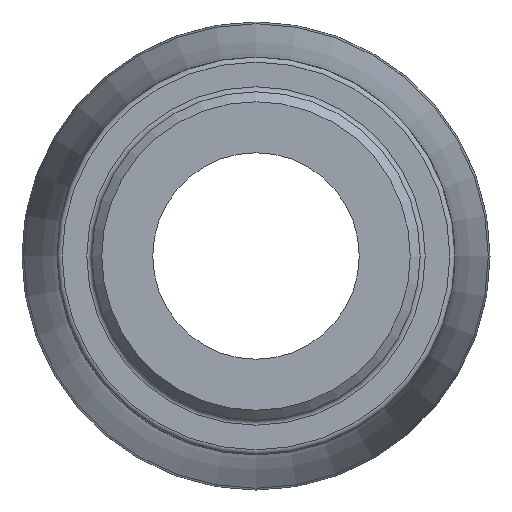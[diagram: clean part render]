
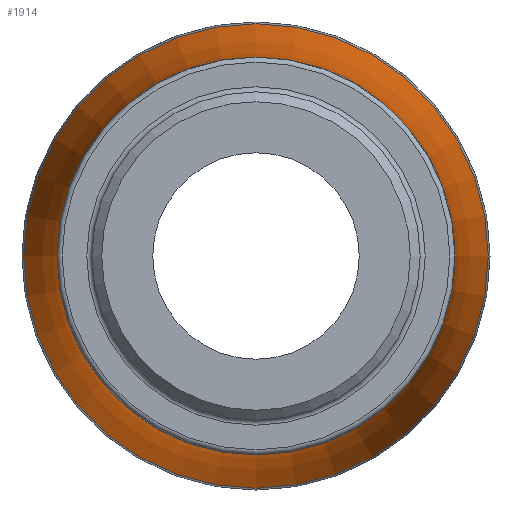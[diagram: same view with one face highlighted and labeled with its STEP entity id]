
A CAD part, left-side view. The second image highlights one B-rep face of the part: STEP entity #1914.
In plain terms, the highlighted toroidal (fillet/blend) face has major radius 199.835 mm and minor radius 163.71 mm.
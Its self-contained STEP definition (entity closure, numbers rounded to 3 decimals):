
#18=TOROIDAL_SURFACE('',#2162,199.835,163.71);
#363=FACE_OUTER_BOUND('',#478,.T.);
#478=EDGE_LOOP('',(#1798,#1799,#1800,#1801,#1802,#1803,#1804));
#668=CIRCLE('',#1943,36.125);
#669=CIRCLE('',#1944,36.125);
#670=CIRCLE('',#1945,36.125);
#737=CIRCLE('',#2043,42.185);
#738=CIRCLE('',#2044,42.185);
#785=CIRCLE('',#2163,163.71);
#791=VERTEX_POINT('',#2731);
#792=VERTEX_POINT('',#2732);
#793=VERTEX_POINT('',#2734);
#876=VERTEX_POINT('',#3236);
#877=VERTEX_POINT('',#3238);
#974=EDGE_CURVE('',#791,#792,#668,.T.);
#975=EDGE_CURVE('',#793,#791,#669,.T.);
#977=EDGE_CURVE('',#792,#793,#670,.T.);
#1084=EDGE_CURVE('',#876,#877,#737,.T.);
#1085=EDGE_CURVE('',#877,#876,#738,.T.);
#1246=EDGE_CURVE('',#792,#876,#785,.T.);
#1798=ORIENTED_EDGE('',*,*,#974,.T.);
#1799=ORIENTED_EDGE('',*,*,#1246,.T.);
#1800=ORIENTED_EDGE('',*,*,#1085,.F.);
#1801=ORIENTED_EDGE('',*,*,#1084,.F.);
#1802=ORIENTED_EDGE('',*,*,#1246,.F.);
#1803=ORIENTED_EDGE('',*,*,#977,.T.);
#1804=ORIENTED_EDGE('',*,*,#975,.T.);
#1914=ADVANCED_FACE('',(#363),#18,.F.);
#1943=AXIS2_PLACEMENT_3D('',#2733,#2183,#2184);
#1944=AXIS2_PLACEMENT_3D('',#2735,#2185,#2186);
#1945=AXIS2_PLACEMENT_3D('',#2737,#2188,#2189);
#2043=AXIS2_PLACEMENT_3D('',#3239,#2408,#2409);
#2044=AXIS2_PLACEMENT_3D('',#3240,#2410,#2411);
#2162=AXIS2_PLACEMENT_3D('',#4202,#2712,#2713);
#2163=AXIS2_PLACEMENT_3D('',#4203,#2714,#2715);
#2183=DIRECTION('center_axis',(1.,0.,0.));
#2184=DIRECTION('ref_axis',(0.,0.,-1.));
#2185=DIRECTION('center_axis',(1.,0.,0.));
#2186=DIRECTION('ref_axis',(0.,0.,-1.));
#2188=DIRECTION('center_axis',(1.,0.,0.));
#2189=DIRECTION('ref_axis',(0.,0.,-1.));
#2408=DIRECTION('center_axis',(1.,0.,0.));
#2409=DIRECTION('ref_axis',(0.,-1.,0.));
#2410=DIRECTION('center_axis',(1.,0.,0.));
#2411=DIRECTION('ref_axis',(0.,-1.,0.));
#2712=DIRECTION('center_axis',(1.,0.,0.));
#2713=DIRECTION('ref_axis',(0.,0.,-1.));
#2714=DIRECTION('center_axis',(0.,-1.,0.));
#2715=DIRECTION('ref_axis',(0.,0.,1.));
#2731=CARTESIAN_POINT('',(84.,36.125,0.));
#2732=CARTESIAN_POINT('',(84.,0.,36.125));
#2733=CARTESIAN_POINT('Origin',(84.,0.,0.));
#2734=CARTESIAN_POINT('',(84.,-36.125,0.));
#2735=CARTESIAN_POINT('Origin',(84.,0.,0.));
#2737=CARTESIAN_POINT('Origin',(84.,0.,0.));
#3236=CARTESIAN_POINT('',(128.131,0.,42.185));
#3238=CARTESIAN_POINT('',(128.131,42.185,0.));
#3239=CARTESIAN_POINT('Origin',(128.131,0.,0.));
#3240=CARTESIAN_POINT('Origin',(128.131,0.,0.));
#4202=CARTESIAN_POINT('Origin',(84.,0.,0.));
#4203=CARTESIAN_POINT('Origin',(84.,0.,199.835));
